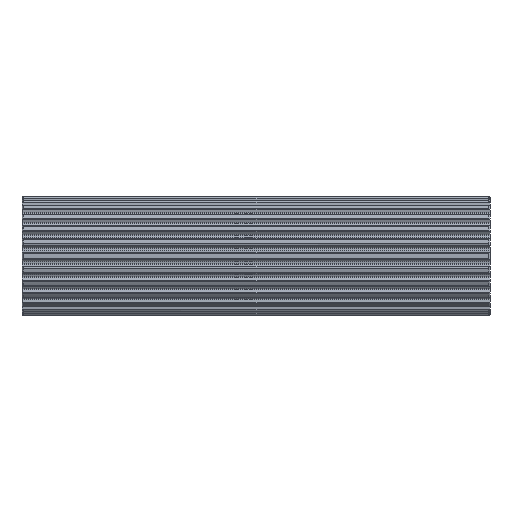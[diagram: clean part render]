
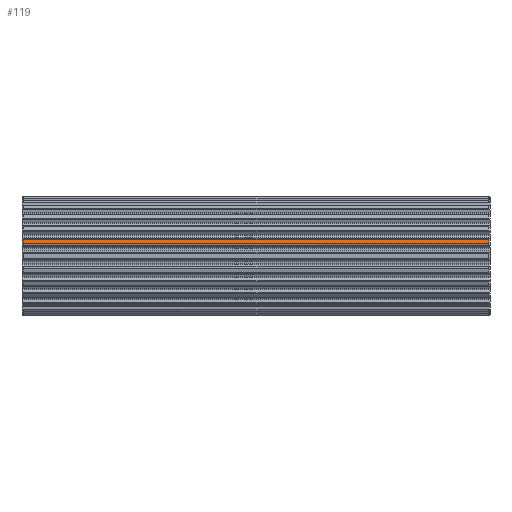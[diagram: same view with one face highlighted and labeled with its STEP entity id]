
A CAD part, front view. The second image highlights one B-rep face of the part: STEP entity #119.
In plain terms, the highlighted cylindrical face has radius 20.44 mm (diameter 40.88 mm), a partial arc.
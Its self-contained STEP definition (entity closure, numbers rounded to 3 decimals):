
#119=ADVANCED_FACE('',(#444),#445,.T.);
#444=FACE_OUTER_BOUND('',#1006,.T.);
#445=CYLINDRICAL_SURFACE('',#1007,20.44);
#1006=EDGE_LOOP('',(#1838,#1839,#1840,#1841));
#1007=AXIS2_PLACEMENT_3D('',#1842,#1843,#1844);
#1838=ORIENTED_EDGE('',*,*,#4167,.T.);
#1839=ORIENTED_EDGE('',*,*,#4168,.T.);
#1840=ORIENTED_EDGE('',*,*,#4169,.T.);
#1841=ORIENTED_EDGE('',*,*,#4170,.T.);
#1842=CARTESIAN_POINT('',(80.0,0.0,0.0));
#1843=DIRECTION('',(1.0,0.0,-0.0));
#1844=DIRECTION('',(0.0,0.239,0.971));
#4167=EDGE_CURVE('',#5170,#5179,#5181,.T.);
#4168=EDGE_CURVE('',#5179,#5182,#5183,.T.);
#4169=EDGE_CURVE('',#5182,#5184,#5185,.T.);
#4170=EDGE_CURVE('',#5184,#5170,#5186,.T.);
#5170=VERTEX_POINT('',#7494);
#5179=VERTEX_POINT('',#7530);
#5181=CIRCLE('',#7541,20.44);
#5182=VERTEX_POINT('',#7542);
#5183=LINE('',#7543,#7544);
#5184=VERTEX_POINT('',#7545);
#5185=CIRCLE('',#7546,20.44);
#5186=LINE('',#7547,#7548);
#7494=CARTESIAN_POINT('',(0.5,-19.638,5.67));
#7530=CARTESIAN_POINT('',(0.5,-20.023,4.106));
#7541=AXIS2_PLACEMENT_3D('',#9969,#9970,#9971);
#7542=CARTESIAN_POINT('',(159.5,-20.023,4.106));
#7543=CARTESIAN_POINT('',(80.0,-20.023,4.106));
#7544=VECTOR('',#9972,1.0);
#7545=CARTESIAN_POINT('',(159.5,-19.638,5.67));
#7546=AXIS2_PLACEMENT_3D('',#9973,#9974,#9975);
#7547=CARTESIAN_POINT('',(80.0,-19.638,5.67));
#7548=VECTOR('',#9976,1.0);
#9969=CARTESIAN_POINT('',(0.5,0.0,0.0));
#9970=DIRECTION('',(1.0,0.,0.));
#9971=DIRECTION('',(0.,0.239,0.971));
#9972=DIRECTION('',(1.0,0.0,0.0));
#9973=CARTESIAN_POINT('',(159.5,0.0,0.0));
#9974=DIRECTION('',(-1.0,0.0,0.0));
#9975=DIRECTION('',(0.0,0.239,0.971));
#9976=DIRECTION('',(-1.0,0.0,0.0));
